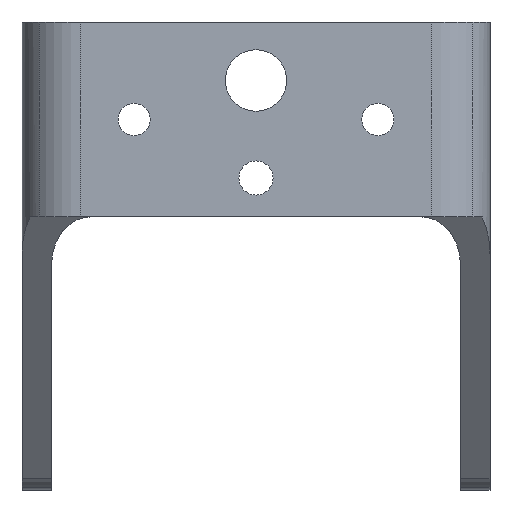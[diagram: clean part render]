
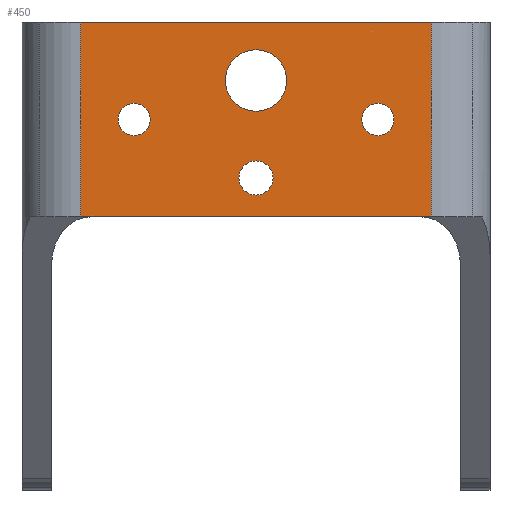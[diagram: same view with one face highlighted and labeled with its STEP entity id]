
A CAD part, front view. The second image highlights one B-rep face of the part: STEP entity #450.
In plain terms, the highlighted planar face has unit normal (0, -1, 0).
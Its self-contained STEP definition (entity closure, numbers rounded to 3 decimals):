
#6 = FACE_BOUND ( 'NONE', #1695, .T. ) ;
#34 = CIRCLE ( 'NONE', #1522, 1.65 ) ;
#64 = CARTESIAN_POINT ( 'NONE',  ( -14.15, 0., 38. ) ) ;
#70 = DIRECTION ( 'NONE',  ( 0., 1., 0. ) ) ;
#76 = CARTESIAN_POINT ( 'NONE',  ( -3.15, 0., 42. ) ) ;
#95 = DIRECTION ( 'NONE',  ( 0., 0., -1. ) ) ;
#127 = CARTESIAN_POINT ( 'NONE',  ( -18., 0., 28. ) ) ;
#132 = CIRCLE ( 'NONE', #1273, 1.65 ) ;
#134 = CARTESIAN_POINT ( 'NONE',  ( 0., 0., 32. ) ) ;
#168 = DIRECTION ( 'NONE',  ( 0., 0., -1. ) ) ;
#173 = LINE ( 'NONE', #1127, #512 ) ;
#180 = DIRECTION ( 'NONE',  ( -1., 0., 0. ) ) ;
#181 = ORIENTED_EDGE ( 'NONE', *, *, #1329, .F. ) ;
#185 = ORIENTED_EDGE ( 'NONE', *, *, #797, .F. ) ;
#194 = EDGE_LOOP ( 'NONE', ( #872, #1221 ) ) ;
#208 = DIRECTION ( 'NONE',  ( 0., 1., 0. ) ) ;
#214 = EDGE_CURVE ( 'NONE', #1584, #530, #444, .T. ) ;
#248 = VERTEX_POINT ( 'NONE', #76 ) ;
#251 = CIRCLE ( 'NONE', #338, 3.15 ) ;
#267 = ORIENTED_EDGE ( 'NONE', *, *, #409, .T. ) ;
#274 = DIRECTION ( 'NONE',  ( 1., 0., 0. ) ) ;
#294 = LINE ( 'NONE', #1360, #1077 ) ;
#296 = DIRECTION ( 'NONE',  ( 0., 1., 0. ) ) ;
#301 = EDGE_CURVE ( 'NONE', #1691, #1186, #1043, .T. ) ;
#305 = PLANE ( 'NONE',  #1214 ) ;
#327 = EDGE_CURVE ( 'NONE', #711, #1628, #34, .T. ) ;
#338 = AXIS2_PLACEMENT_3D ( 'NONE', #717, #296, #1536 ) ;
#345 = CARTESIAN_POINT ( 'NONE',  ( 12.5, 0., 38. ) ) ;
#409 = EDGE_CURVE ( 'NONE', #831, #530, #173, .T. ) ;
#431 = CARTESIAN_POINT ( 'NONE',  ( 3.15, 0., 42. ) ) ;
#438 = CARTESIAN_POINT ( 'NONE',  ( -18., 0., 48. ) ) ;
#444 = LINE ( 'NONE', #984, #1731 ) ;
#450 = ADVANCED_FACE ( 'NONE', ( #6, #691, #1444, #1279, #756 ), #305, .T. ) ;
#459 = CARTESIAN_POINT ( 'NONE',  ( 18., 0., 28. ) ) ;
#469 = VERTEX_POINT ( 'NONE', #438 ) ;
#512 = VECTOR ( 'NONE', #1543, 1000. ) ;
#515 = CIRCLE ( 'NONE', #1703, 1.75 ) ;
#525 = DIRECTION ( 'NONE',  ( 0., -1., 0. ) ) ;
#530 = VERTEX_POINT ( 'NONE', #459 ) ;
#539 = DIRECTION ( 'NONE',  ( 0., 1., 0. ) ) ;
#540 = AXIS2_PLACEMENT_3D ( 'NONE', #345, #1282, #849 ) ;
#595 = EDGE_CURVE ( 'NONE', #1510, #248, #1698, .T. ) ;
#596 = CIRCLE ( 'NONE', #706, 1.65 ) ;
#606 = ORIENTED_EDGE ( 'NONE', *, *, #595, .T. ) ;
#635 = DIRECTION ( 'NONE',  ( -1., 0., 0. ) ) ;
#656 = DIRECTION ( 'NONE',  ( 0., 1., 0. ) ) ;
#661 = CARTESIAN_POINT ( 'NONE',  ( 14.15, 0., 38. ) ) ;
#666 = VERTEX_POINT ( 'NONE', #1736 ) ;
#684 = DIRECTION ( 'NONE',  ( -1., 0., 0. ) ) ;
#691 = FACE_BOUND ( 'NONE', #1097, .T. ) ;
#692 = ORIENTED_EDGE ( 'NONE', *, *, #301, .T. ) ;
#696 = AXIS2_PLACEMENT_3D ( 'NONE', #1173, #656, #1437 ) ;
#706 = AXIS2_PLACEMENT_3D ( 'NONE', #1757, #539, #790 ) ;
#711 = VERTEX_POINT ( 'NONE', #64 ) ;
#717 = CARTESIAN_POINT ( 'NONE',  ( 0., 0., 42. ) ) ;
#753 = EDGE_LOOP ( 'NONE', ( #1372, #185, #181, #267 ) ) ;
#756 = FACE_OUTER_BOUND ( 'NONE', #753, .T. ) ;
#790 = DIRECTION ( 'NONE',  ( -1., 0., 0. ) ) ;
#797 = EDGE_CURVE ( 'NONE', #469, #1584, #948, .T. ) ;
#831 = VERTEX_POINT ( 'NONE', #127 ) ;
#847 = DIRECTION ( 'NONE',  ( 0., 0., 1. ) ) ;
#849 = DIRECTION ( 'NONE',  ( -1., 0., 0. ) ) ;
#872 = ORIENTED_EDGE ( 'NONE', *, *, #1456, .T. ) ;
#876 = CARTESIAN_POINT ( 'NONE',  ( 0., 0., 32. ) ) ;
#929 = CARTESIAN_POINT ( 'NONE',  ( 18., 0., 48. ) ) ;
#936 = EDGE_CURVE ( 'NONE', #248, #1510, #251, .T. ) ;
#948 = LINE ( 'NONE', #1361, #1484 ) ;
#984 = CARTESIAN_POINT ( 'NONE',  ( 18., 0., 0. ) ) ;
#1008 = ORIENTED_EDGE ( 'NONE', *, *, #1509, .T. ) ;
#1011 = EDGE_CURVE ( 'NONE', #1628, #711, #132, .T. ) ;
#1019 = ORIENTED_EDGE ( 'NONE', *, *, #327, .T. ) ;
#1043 = CIRCLE ( 'NONE', #540, 1.65 ) ;
#1077 = VECTOR ( 'NONE', #847, 1000. ) ;
#1082 = DIRECTION ( 'NONE',  ( 0., 1., 0. ) ) ;
#1093 = EDGE_CURVE ( 'NONE', #666, #1685, #515, .T. ) ;
#1097 = EDGE_LOOP ( 'NONE', ( #1019, #1748 ) ) ;
#1127 = CARTESIAN_POINT ( 'NONE',  ( 0., 0., 28. ) ) ;
#1137 = CARTESIAN_POINT ( 'NONE',  ( -1.75, 0., 32. ) ) ;
#1173 = CARTESIAN_POINT ( 'NONE',  ( 0., 0., 42. ) ) ;
#1186 = VERTEX_POINT ( 'NONE', #661 ) ;
#1214 = AXIS2_PLACEMENT_3D ( 'NONE', #1558, #525, #95 ) ;
#1221 = ORIENTED_EDGE ( 'NONE', *, *, #1093, .T. ) ;
#1226 = ORIENTED_EDGE ( 'NONE', *, *, #936, .T. ) ;
#1273 = AXIS2_PLACEMENT_3D ( 'NONE', #1447, #1581, #1713 ) ;
#1279 = FACE_BOUND ( 'NONE', #194, .T. ) ;
#1282 = DIRECTION ( 'NONE',  ( 0., 1., 0. ) ) ;
#1329 = EDGE_CURVE ( 'NONE', #831, #469, #294, .T. ) ;
#1360 = CARTESIAN_POINT ( 'NONE',  ( -18., 0., 0. ) ) ;
#1361 = CARTESIAN_POINT ( 'NONE',  ( -24., 0., 48. ) ) ;
#1371 = CARTESIAN_POINT ( 'NONE',  ( -10.85, 0., 38. ) ) ;
#1372 = ORIENTED_EDGE ( 'NONE', *, *, #214, .F. ) ;
#1393 = CARTESIAN_POINT ( 'NONE',  ( -12.5, 0., 38. ) ) ;
#1428 = EDGE_LOOP ( 'NONE', ( #1226, #606 ) ) ;
#1437 = DIRECTION ( 'NONE',  ( -1., 0., 0. ) ) ;
#1444 = FACE_BOUND ( 'NONE', #1428, .T. ) ;
#1447 = CARTESIAN_POINT ( 'NONE',  ( -12.5, 0., 38. ) ) ;
#1456 = EDGE_CURVE ( 'NONE', #1685, #666, #1741, .T. ) ;
#1484 = VECTOR ( 'NONE', #274, 1000. ) ;
#1509 = EDGE_CURVE ( 'NONE', #1186, #1691, #596, .T. ) ;
#1510 = VERTEX_POINT ( 'NONE', #431 ) ;
#1522 = AXIS2_PLACEMENT_3D ( 'NONE', #1393, #208, #180 ) ;
#1536 = DIRECTION ( 'NONE',  ( -1., 0., 0. ) ) ;
#1543 = DIRECTION ( 'NONE',  ( 1., 0., 0. ) ) ;
#1558 = CARTESIAN_POINT ( 'NONE',  ( -24., 0., 0. ) ) ;
#1581 = DIRECTION ( 'NONE',  ( 0., 1., 0. ) ) ;
#1584 = VERTEX_POINT ( 'NONE', #929 ) ;
#1622 = AXIS2_PLACEMENT_3D ( 'NONE', #876, #70, #635 ) ;
#1628 = VERTEX_POINT ( 'NONE', #1371 ) ;
#1685 = VERTEX_POINT ( 'NONE', #1137 ) ;
#1691 = VERTEX_POINT ( 'NONE', #1693 ) ;
#1693 = CARTESIAN_POINT ( 'NONE',  ( 10.85, 0., 38. ) ) ;
#1695 = EDGE_LOOP ( 'NONE', ( #692, #1008 ) ) ;
#1698 = CIRCLE ( 'NONE', #696, 3.15 ) ;
#1703 = AXIS2_PLACEMENT_3D ( 'NONE', #134, #1082, #684 ) ;
#1713 = DIRECTION ( 'NONE',  ( -1., 0., 0. ) ) ;
#1731 = VECTOR ( 'NONE', #168, 1000. ) ;
#1736 = CARTESIAN_POINT ( 'NONE',  ( 1.75, 0., 32. ) ) ;
#1741 = CIRCLE ( 'NONE', #1622, 1.75 ) ;
#1748 = ORIENTED_EDGE ( 'NONE', *, *, #1011, .T. ) ;
#1757 = CARTESIAN_POINT ( 'NONE',  ( 12.5, 0., 38. ) ) ;
